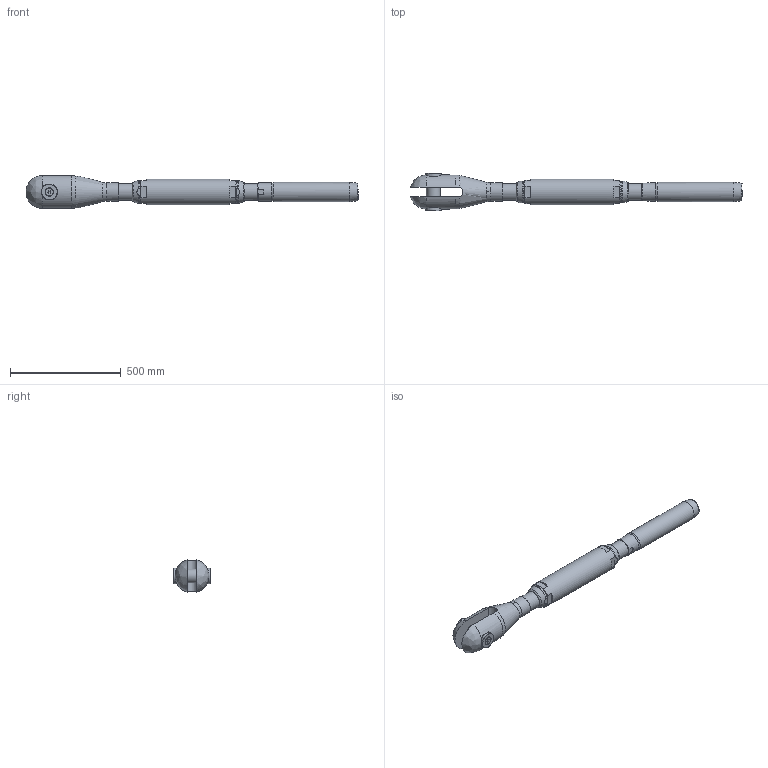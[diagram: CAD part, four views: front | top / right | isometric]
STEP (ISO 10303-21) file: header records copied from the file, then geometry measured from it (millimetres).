
FILE_DESCRIPTION(/* description */ (''),/* implementation_level */ '2;1');
FILE_NAME(/* name */ 'TBC 42_S355',/* time_stamp */ '2023-05-23T18:17:49+02:00',/* author */ (''),/* organization */ (''),/* preprocessor_version */ 'ST-DEVELOPER v16.5',/* originating_system */ 'Rhino 7.22',/* authorisation */ '');
FILE_SCHEMA (('CONFIG_CONTROL_DESIGN'));
Length unit declared in the file: millimetre
Products named in the file (1): Document
Bounding box: 1501.75 x 169.07 x 147.58 mm (x, y, z)
Volume: 11986663 mm3; surface area: 883034 mm2
Topology: 10 solids, 10 shells, 140 faces, 382 edges, 264 vertices
Faces by surface type: plane 65, bspline 40, cylinder 35
Full cylindrical faces by diameter (mm): 17.294 x2, 20 x2, 21 x2, 35.4 x2, 63 x1, 64 x2, 71 x2, 72.752 x4, 76 x2, 80 x1, 83 x2, 87 x1, 116 x1
Entity records: 5975 total; most frequent: CARTESIAN_POINT 3550, ORIENTED_EDGE 756, EDGE_CURVE 378, VERTEX_POINT 264, EDGE_LOOP 160, B_SPLINE_CURVE_WITH_KNOTS 157, ADVANCED_FACE 140, FACE_OUTER_BOUND 140
